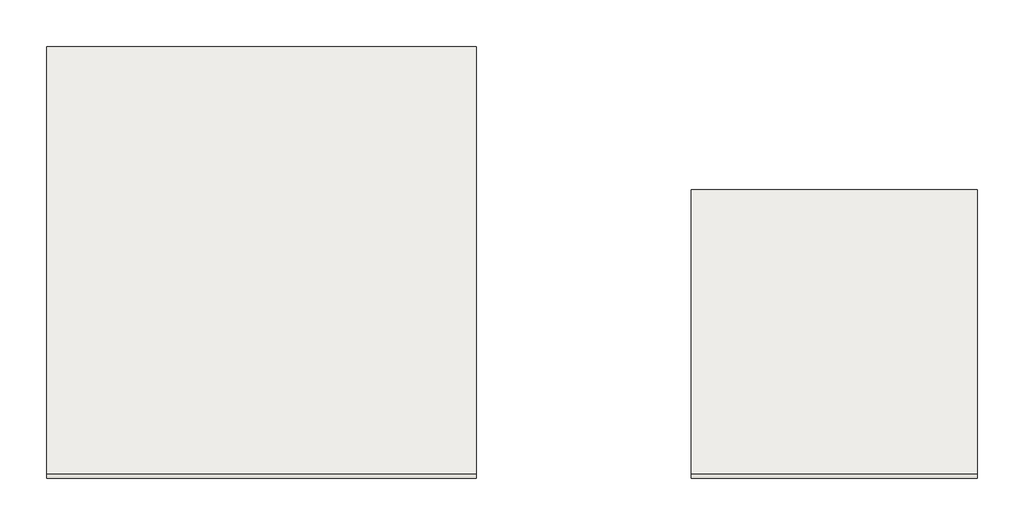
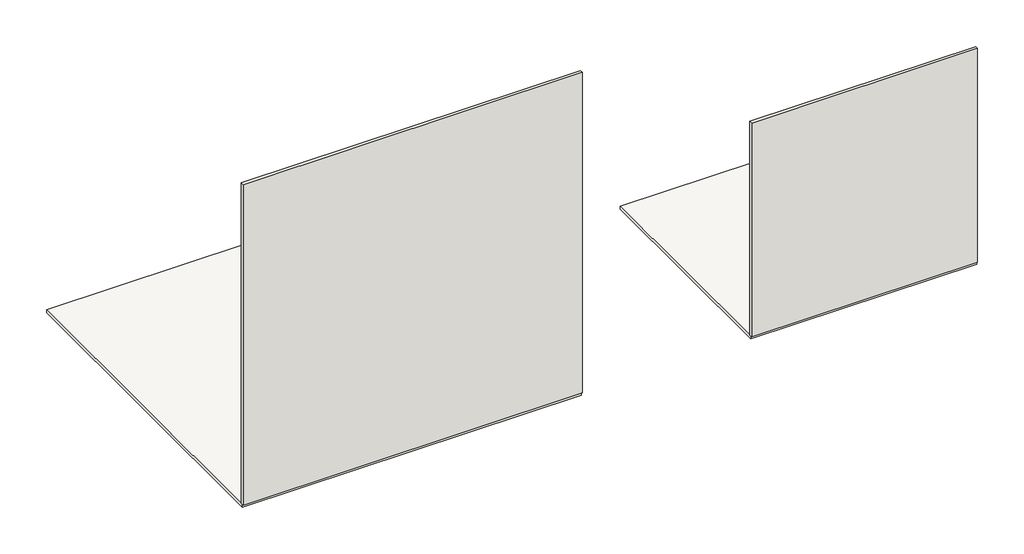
# One storey: 2 slabs, 2 walls.
"""IFC4 building model written with IfcOpenShell, lengths in millimetres."""

from ifc_helpers import new_model, si_unit, frame, origin, origin_with_axes, place, context, project, spatial, polyline, outline, extrude, element, save

model = new_model("IFC4")

# Units and contexts
model_context = context("Model", 3, world=origin())
ifc_project = project(units=[si_unit("LENGTHUNIT", "METRE", prefix="MILLI")], contexts=[model_context])

# Site, building, storey
site = spatial("IfcSite", under=ifc_project)
building = spatial("IfcBuilding", under=site)
storey = spatial("IfcBuildingStorey", under=building, Name="INARI FLOOR TILES", Elevation=0.0)

# Slabs
placement = place(None, origin())
element("IfcSlab", 1, ObjectType="VIVES - INARI-R NIEVE 120x120", at=placement, inside=storey, context=model_context, shape_type="SweptSolid", body=[
    extrude(outline(polyline([(1200.0, 0.0), (0.0, 0.0), (0.0, 1200.0), (1200.0, 1200.0), (1200.0, 0.0)])), frame((0.0, 0.0, -11.0), z_axis=(0.0, 0.0, 1.0), x_axis=(1.0, 0.0, 0.0)), (0.0, 0.0, 1.0), 11.0),
])
element("IfcSlab", 2, ObjectType="VIVES - INARI-R NIEVE 80x80", at=placement, inside=storey, context=model_context, shape_type="SweptSolid", body=[
    extrude(outline(polyline([(2600.0, 0.0), (1800.0, 0.0), (1800.0, 800.0), (2600.0, 800.0), (2600.0, 0.0)])), frame((0.0, 0.0, -11.0), z_axis=(0.0, 0.0, 1.0), x_axis=(1.0, 0.0, 0.0)), (0.0, 0.0, 1.0), 11.0),
])

# Walls
element("IfcWall", 3, ObjectType="VIVES - INARI-R NIEVE 120x120", at=placement, inside=storey, context=model_context, shape_type="SweptSolid", body=[
    extrude(outline(polyline([(1200.0, -5.5), (0.0, -5.5), (0.0, 5.5), (1200.0, 5.5), (1200.0, -5.5)])), origin_with_axes(), (0.0, 0.0, 1.0), 1200.0),
])
element("IfcWall", 4, ObjectType="VIVES - INARI-R NIEVE 80x80", at=placement, inside=storey, context=model_context, shape_type="SweptSolid", body=[
    extrude(outline(polyline([(2600.0, -5.5), (1800.0, -5.5), (1800.0, 5.5), (2600.0, 5.5), (2600.0, -5.5)])), origin_with_axes(), (0.0, 0.0, 1.0), 800.0),
])

save(model, "model.ifc")
